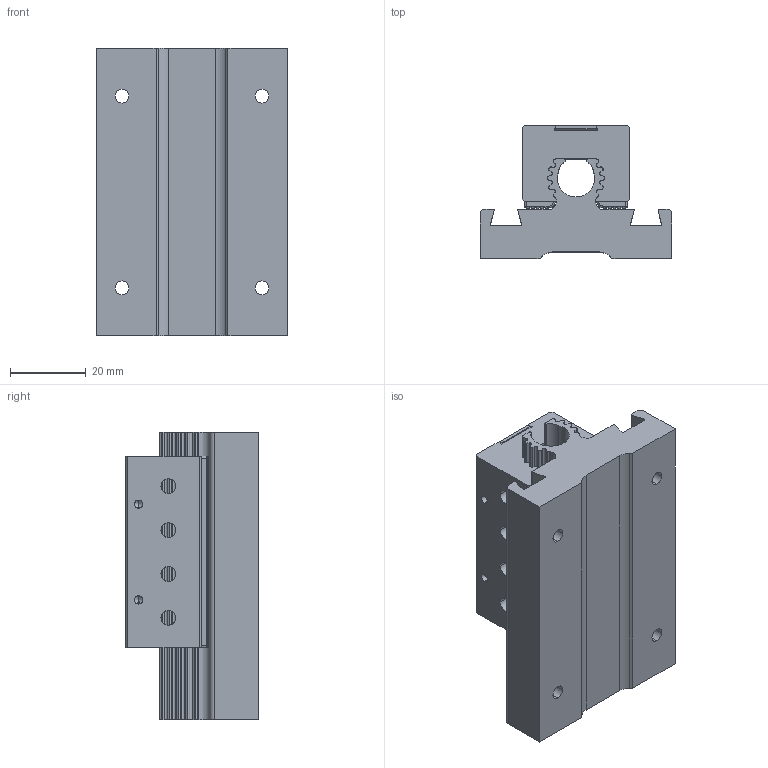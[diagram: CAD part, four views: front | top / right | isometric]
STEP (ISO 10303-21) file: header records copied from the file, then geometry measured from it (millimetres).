
FILE_DESCRIPTION (( 'STEP AP214' ), '1' );
FILE_NAME ('AMETEK-RGW06KN-A00-0000-01.00-001.STEP', '2022-03-07T07:15:10', ( '' ), ( '' ), 'SwSTEP 2.0', 'SolidWorks 2021', '' );
FILE_SCHEMA (( 'AUTOMOTIVE_DESIGN' ));
Length unit declared in the file: inch
Products named in the file (5): Outrigger C; cover; screwsplineextrusion; AMETEK-RGW06KN-A00-0000-01.00-001; 85459
Assembly tree (5 placements, depth 2):
  AMETEK-RGW06KN-A00-0000-01.00-001
    screwsplineextrusion
    Outrigger C  x2
    cover
    85459
Bounding box: 50.8 x 35.22 x 76.2 mm (x, y, z)
Volume: 71009.3 mm3; surface area: 29693.8 mm2
Topology: 5 solids, 5 shells, 556 faces, 1562 edges, 1020 vertices
Faces by surface type: plane 277, cylinder 219, bspline 28, cone 24, torus 8
Entity records: 23303 total; most frequent: CARTESIAN_POINT 4240, ORIENTED_EDGE 2768, DIRECTION 2410, EDGE_CURVE 1384, VERTEX_POINT 916, VECTOR 828, LINE 828, AXIS2_PLACEMENT_3D 791
